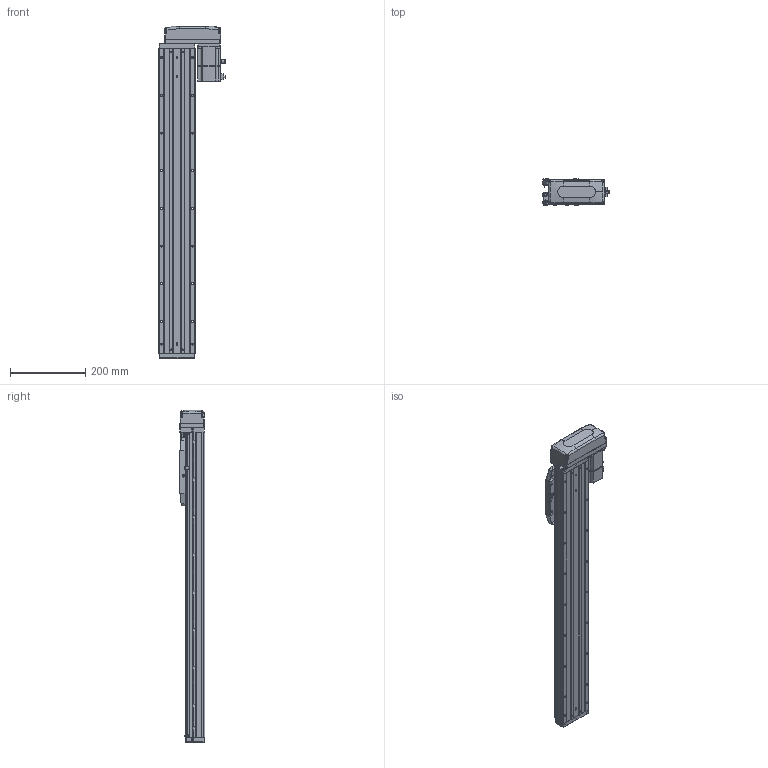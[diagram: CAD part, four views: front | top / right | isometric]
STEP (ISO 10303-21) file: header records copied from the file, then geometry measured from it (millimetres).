
FILE_DESCRIPTION (( 'STEP AP203' ), '1' );
FILE_NAME ('CTHA100-600-BL-M20-C4L.step', '2022-07-06T08:58:02', ( '微软用户' ), ( '微软中国' ), 'SwSTEP 2.0', 'SolidWorks 2020', '' );
FILE_SCHEMA (( 'CONFIG_CONTROL_DESIGN' ));
Length unit declared in the file: millimetre
Products named in the file (19): CTHA60-021; CTHA100-031; KTHA100-001_810; GBT77-2000 M3×3; CTHA86-030; KTHA100-004; GBT 70.1-M3℅6; GBT 70.3-M3℅6; KTHA100-005; GBT70.1 M5℅16; CTHA86-015-1_CTHA86-015-2; GB¨uT 70.2-M3¡Á5_M3¡Á6; CTHA60-016; CTHA86-033; EE_SX911P_R; _X2_4E0983F1_X0_200W_1; CTHA100-600-BL-M20-C4L; CTHA60-017; CTHA100-002
Assembly tree (64 placements, depth 2):
  CTHA100-600-BL-M20-C4L
    KTHA100-001_810
    KTHA100-004
    KTHA100-005
    GB¨uT 70.2-M3¡Á5_M3¡Á6  x10
    EE_SX911P_R  x3
    CTHA60-017  x3
    CTHA60-021  x2
    GBT77-2000 M3×3  x6
    GBT 70.1-M3℅6  x10
    GBT70.1 M5℅16  x14
    CTHA60-016  x2
    _X2_4E0983F1_X0_200W_1
    CTHA100-002
    CTHA100-031
    CTHA86-030  x2
    GBT 70.3-M3℅6  x4
    CTHA86-015-1_CTHA86-015-2
    CTHA86-033
Bounding box: 177.7 x 68 x 881 mm (x, y, z)
Volume: 3747438.7 mm3; surface area: 636017.1 mm2
Topology: 66 solids, 66 shells, 2689 faces, 6471 edges, 4012 vertices
Faces by surface type: plane 1404, cylinder 707, cone 355, torus 124, bspline 75, sphere 24
Entity records: 46638 total; most frequent: CARTESIAN_POINT 9147, DIRECTION 7204, ORIENTED_EDGE 7058, EDGE_CURVE 3529, AXIS2_PLACEMENT_3D 2441, VECTOR 2322, LINE 2322, VERTEX_POINT 2232
